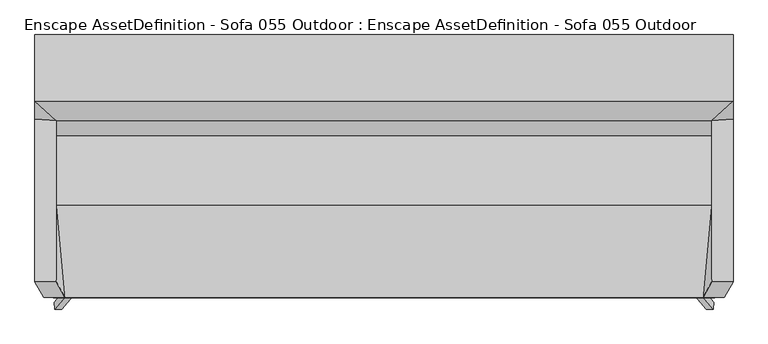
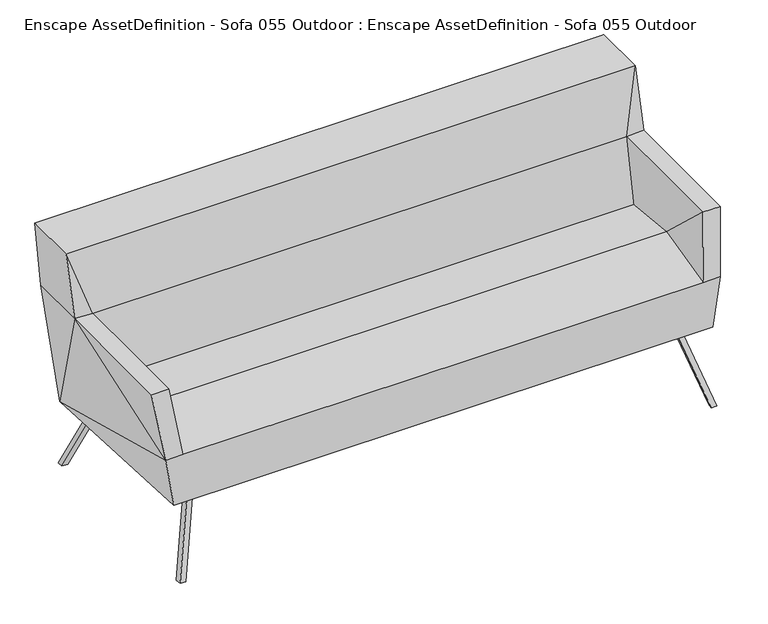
"""IFC4 building model written with IfcOpenShell, lengths in millimetres: geographic element geometry, Enscape AssetDefinition - Sofa 055 Outdoor : Enscape AssetDefinition - Sofa 055 Outdoor."""

from ifc_helpers import new_model, si_unit, origin, place, context, project, spatial, triangles, source, transform, mapped, element, save


def enscape_assetdefinition_sofa_055_outdoor_enscape_e8bea229(model_context):
    return source(origin(), model_context, "Body", "Tessellation", [
        triangles([(906.8429758, -354.6566952, 1.2971764), (825.3395931, -238.6843045, 284.2256744), (804.3820787, -257.6905754, 284.2256744), (823.5752386, -257.6905754, 284.2256744), (887.6497433, -354.6566952, 1.2971764), (806.1463606, -238.6843045, 284.2256744), (908.6073303, -335.6504062, 1.2971764), (889.4140978, -335.6504062, 1.2971764), (823.5752386, 235.4129744, 284.2256744), (804.3820787, 235.4129744, 284.2256744), (887.6497433, 337.4550199, 1.2971764), (906.8429758, 337.4550199, 1.2971764), (908.6073303, 356.4613089, 1.2971764), (806.1463606, 254.4192634, 284.2256744), (889.4140978, 356.4613089, 1.2971764), (825.3395931, 254.4192634, 284.2256744), (-823.5752386, -257.6905754, 284.2256744), (-887.6497433, -354.6566952, 1.2971764), (-906.8429758, -354.6566952, 1.2971764), (-806.1463606, -238.6843045, 284.2256744), (-908.6073303, -335.6504062, 1.2971764), (-889.4140978, -335.6504062, 1.2971764), (-804.3820787, -257.6905754, 284.2256744), (-825.3395931, -238.6843045, 284.2256744), (-906.8429758, 337.4550199, 1.2971764), (-908.6073303, 356.4613089, 1.2971764), (-887.6497433, 337.4550199, 1.2971764), (-806.1463606, 254.4192634, 284.2256744), (-804.3820787, 235.4129744, 284.2256744), (-823.5752386, 235.4129744, 284.2256744), (-825.3395931, 254.4192634, 284.2256744), (-889.4140978, 356.4613089, 1.2971764), (-910.3847654, -324.017359, 263.8286091), (-936.7085947, -322.2147074, 432.8008716), (-961.2121862, -280.1150424, 649.8097549), (-878.9649536, -322.2147074, 432.8008716), (-935.1815804, 300.6787218, 263.8285546), (961.2121862, 366.9188464, 649.8097549), (936.7085947, -322.2147074, 432.8008716), (910.3849108, -324.017359, 263.8286091), (935.1815804, 300.6787218, 263.8285546), (961.2121862, 401.2883692, 850.0808155), (-961.2121862, 366.9188464, 649.8097549), (-961.2121862, 401.2883692, 850.0808155), (-961.2121862, 169.3531803, 649.8097549), (-961.2121862, 218.8880383, 850.0808155), (961.2121862, 218.8880383, 850.0808155), (901.9580996, 165.5216555, 649.8097549), (961.2121862, 169.3531803, 649.8097549), (-901.9580996, 165.5216555, 649.8097549), (-901.9580996, -58.8388913, 649.8097549), (-901.9580996, -68.4623954, 452.2306449), (901.9580996, 123.3059001, 432.8008716), (901.9580996, -58.8388913, 649.8097549), (901.9580996, -68.4623954, 452.2306449), (961.2121862, -280.1150424, 649.8097549), (901.9580996, -280.1150424, 649.8097549), (878.9649536, -322.2147074, 432.8008716), (-901.9580996, -280.1150424, 649.8097549), (-901.9580996, 123.3059001, 432.8008716)], [[52, 60, 51], [59, 51, 45], [59, 52, 51], [35, 59, 45], [59, 36, 52], [59, 35, 36], [52, 36, 58], [58, 39, 56], [49, 56, 39], [57, 56, 49], [56, 57, 58], [55, 52, 58], [57, 55, 58], [57, 54, 55], [49, 54, 57], [53, 55, 54], [52, 55, 53], [60, 52, 53], [60, 50, 51], [50, 60, 53], [51, 50, 45], [54, 48, 53], [54, 49, 48], [50, 53, 48], [49, 47, 48], [48, 47, 46], [50, 48, 46], [45, 50, 46], [45, 46, 44], [46, 47, 42], [49, 42, 47], [44, 46, 42], [43, 44, 42], [45, 44, 43], [49, 38, 42], [43, 42, 38], [41, 38, 49], [41, 49, 39], [40, 58, 36], [40, 39, 58], [41, 39, 40], [37, 43, 38], [45, 43, 37], [37, 38, 41], [40, 37, 41], [35, 34, 36], [34, 35, 45], [34, 45, 37], [40, 33, 37], [40, 36, 33], [37, 33, 34], [33, 36, 34], [31, 28, 32], [32, 26, 31], [30, 31, 26], [29, 28, 31], [31, 30, 29], [26, 32, 27], [28, 29, 27], [27, 32, 28], [27, 25, 26], [26, 25, 30], [29, 30, 25], [25, 27, 29], [24, 20, 22], [22, 21, 24], [17, 24, 21], [23, 20, 24], [24, 17, 23], [21, 22, 18], [20, 23, 18], [18, 22, 20], [18, 19, 21], [21, 19, 17], [23, 17, 19], [19, 18, 23], [15, 14, 16], [16, 13, 15], [11, 15, 13], [14, 15, 11], [16, 14, 10], [11, 10, 14], [10, 9, 16], [13, 16, 9], [13, 12, 11], [9, 12, 13], [10, 11, 12], [12, 9, 10], [8, 6, 2], [2, 7, 8], [5, 8, 7], [6, 8, 5], [2, 6, 3], [5, 3, 6], [3, 4, 2], [7, 2, 4], [7, 1, 5], [4, 1, 7], [3, 5, 1], [1, 4, 3]]),
    ])


if __name__ == "__main__":
    model = new_model("IFC4")
    model_context = context("Model", 3, world=origin())
    ifc_project = project(units=[si_unit("LENGTHUNIT", "METRE", prefix="MILLI")], contexts=[model_context])
    site = spatial("IfcSite", under=ifc_project)
    building = spatial("IfcBuilding", under=site)
    placement = place(None, origin())
    enscape_assetdefinition_sofa_055_outdoor_enscape_shape = enscape_assetdefinition_sofa_055_outdoor_enscape_e8bea229(model_context)
    element("IfcGeographicElement", 1, ObjectType="Enscape AssetDefinition - Sofa 055 Outdoor : Enscape AssetDefinition - Sofa 055 Outdoor", at=placement, inside=building, context=model_context, shape_type="MappedRepresentation", body=[
        mapped(enscape_assetdefinition_sofa_055_outdoor_enscape_shape, transform((0.0, 0.0, 0.0), x_axis=(1.0, 0.0, 0.0), y_axis=(0.0, 1.0, 0.0), z_axis=(0.0, 0.0, 1.0))),
    ])
    save(model, "model.ifc")
